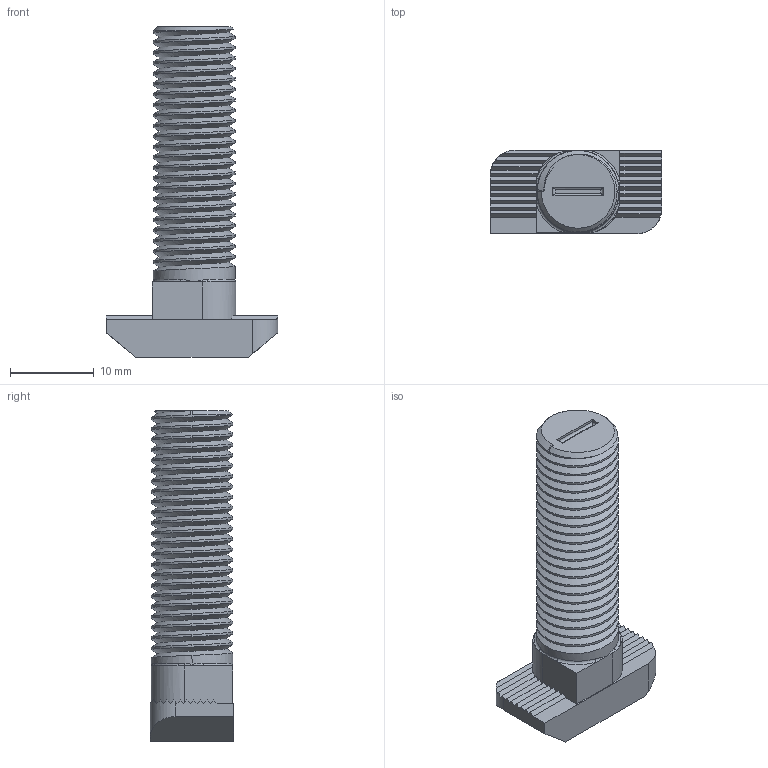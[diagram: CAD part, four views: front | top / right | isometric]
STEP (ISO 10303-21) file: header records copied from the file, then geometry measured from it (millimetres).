
FILE_DESCRIPTION (( 'STEP AP214' ), '1' );
FILE_NAME ('5169.STEP', '2017-08-09T07:59:24', ( '' ), ( '' ), 'SwSTEP 2.0', 'SolidWorks 2014', '' );
FILE_SCHEMA (( 'AUTOMOTIVE_DESIGN' ));
Length unit declared in the file: millimetre
Products named in the file (2): 5169
Bounding box: 20.5 x 10 x 39.5 mm (x, y, z)
Volume: 3261.9 mm3; surface area: 2302 mm2
Topology: 1 solids, 1 shells, 136 faces, 388 edges, 252 vertices
Faces by surface type: plane 63, cylinder 56, bspline 10, torus 4, cone 3
Entity records: 7610 total; most frequent: CARTESIAN_POINT 4491, ORIENTED_EDGE 766, DIRECTION 517, EDGE_CURVE 383, VERTEX_POINT 250, LINE 203, VECTOR 203, AXIS2_PLACEMENT_3D 157
